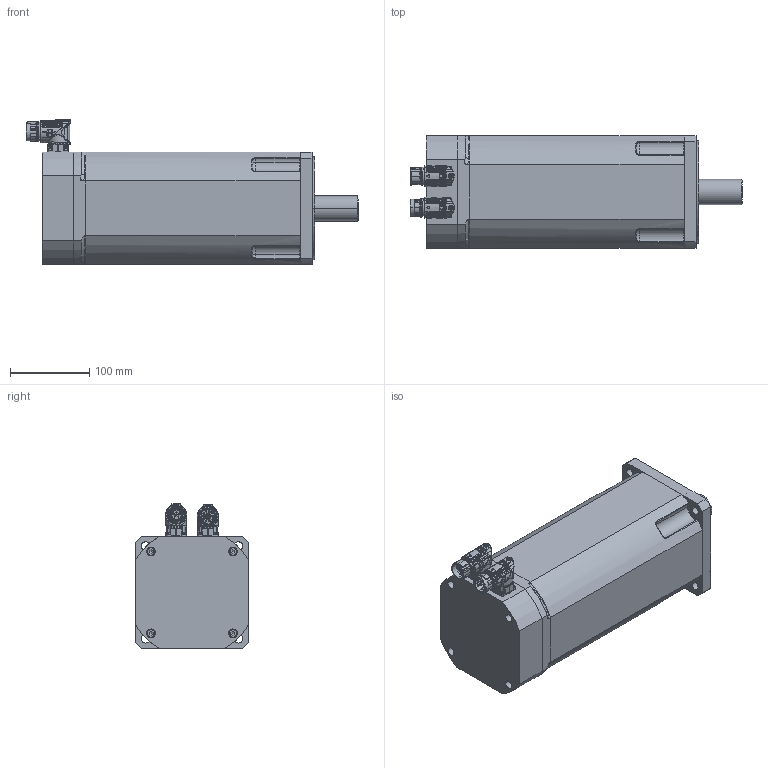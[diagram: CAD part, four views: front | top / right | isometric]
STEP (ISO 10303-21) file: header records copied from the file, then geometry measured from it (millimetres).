
FILE_DESCRIPTION(('CATIA V5 STEP Exchange'),'2;1');
FILE_NAME('C:\Documents and Settings\max\Documenti\sangallimotori\3d step\tg5\motore_DSM5_53_Freno.stp','2010-12-12T19:47:11+00:00',('none'),('none'),'CATIA Version 5 Release 10 (IN-8)','CATIA V5 STEP AP203',' none');
FILE_SCHEMA(('CONFIG_CONTROL_DESIGN'));
Assembly tree (27 placements, depth 0):
Bounding box: 418.81 x 142 x 183.43 mm (x, y, z)
Volume: 6238976.5 mm3; surface area: 366749.4 mm2
Topology: 23 solids, 28 shells, 4112 faces, 13934 edges, 9842 vertices
Faces by surface type: cylinder 1486, bspline 1334, plane 590, torus 360, cone 233, sphere 109
Entity records: 255963 total; most frequent: CARTESIAN_POINT 165446, ORIENTED_EDGE 25592, EDGE_CURVE 12853, VERTEX_POINT 9238, DIRECTION 8836, B_SPLINE_CURVE_WITH_KNOTS 7940, AXIS2_PLACEMENT_3D 4425, EDGE_LOOP 3856
